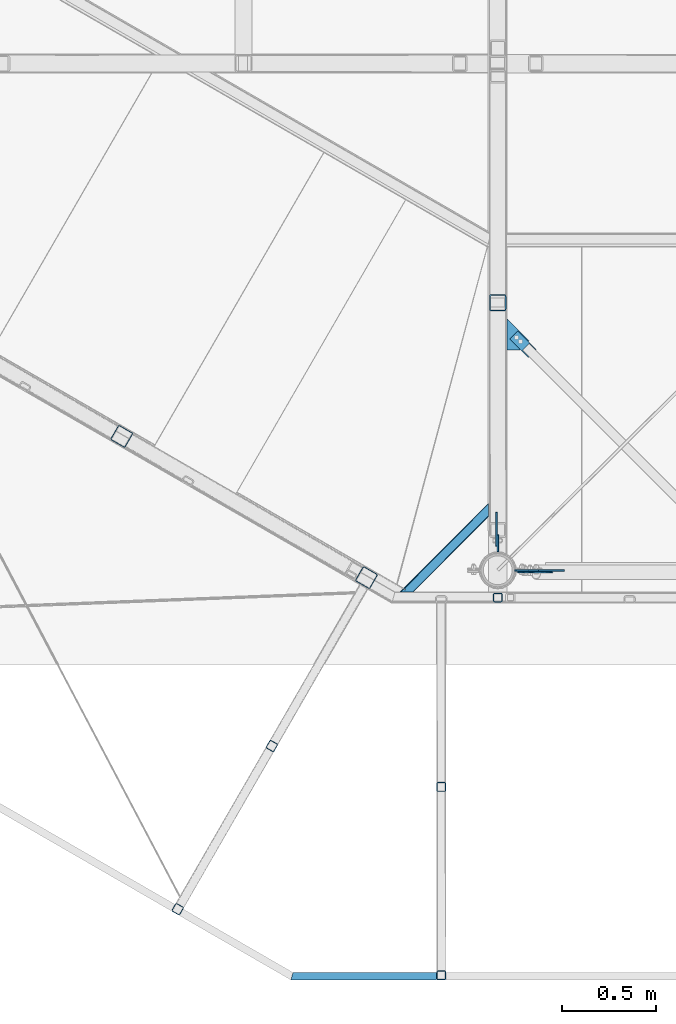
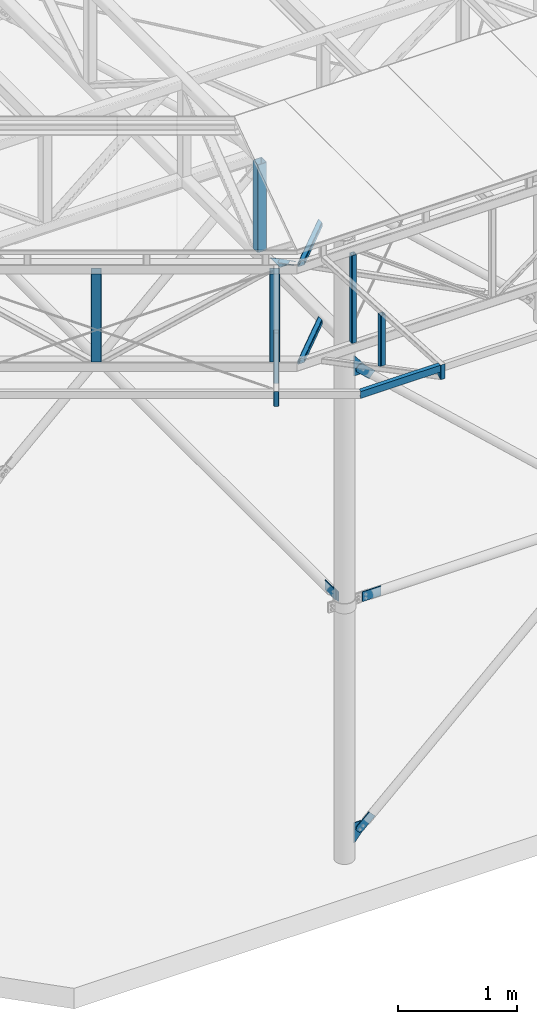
# One storey, part 62 of 132: 20 discrete accessories, 11 elements without a shape of their own.
"""IFC2X3 building model written with IfcOpenShell, lengths in millimetres."""

from ifc_helpers import new_model, si_unit, frame, origin_with_axes, origin_2d_with_axis, place, context, subcontext, project, spatial, polyline, rectangle, hollow_rectangle, u_section, outline, extrude, boolean, clip, halfspace, material, type_object, element, aggregate, save


model = new_model("IFC2X3")

# Units and contexts
model_context = context("Model", 3, precision=1e-05, world=origin_with_axes())
body_context = subcontext(model_context, "Body", "Model", "MODEL_VIEW")
ifc_project = project(units=[si_unit("LENGTHUNIT", "METRE", prefix="MILLI"), si_unit("AREAUNIT", "SQUARE_METRE"), si_unit("VOLUMEUNIT", "CUBIC_METRE"), si_unit("MASSUNIT", "GRAM", prefix="KILO"), si_unit("TIMEUNIT", "SECOND"), si_unit("PLANEANGLEUNIT", "RADIAN"), si_unit("SOLIDANGLEUNIT", "STERADIAN"), si_unit("THERMODYNAMICTEMPERATUREUNIT", "DEGREE_CELSIUS"), si_unit("LUMINOUSINTENSITYUNIT", "LUMEN")], contexts=[model_context])

# Site, building, storey
site_placement = place(None, origin_with_axes())
site = spatial("IfcSite", under=ifc_project, at=site_placement, Name="Budowa", CompositionType="ELEMENT")
building_placement = place(site_placement, origin_with_axes())
building = spatial("IfcBuilding", under=site, at=building_placement, Name="Undefined", CompositionType="ELEMENT")
storey_placement = place(building_placement, origin_with_axes())
storey = spatial("IfcBuildingStorey", under=building, at=storey_placement, Name="Undefined", CompositionType="ELEMENT", Elevation=0.0)

# Assembly, discrete accessory
assembly_1_placement = place(storey_placement, origin_with_axes())
assembly_1 = element("IfcElementAssembly", 1, at=assembly_1_placement, inside=storey, Name="Steel Assembly", AssemblyPlace="NOTDEFINED", PredefinedType="RIGID_FRAME")
ifc_material = material(Name="STEEL/S235")
discrete_accessory_type_1 = type_object("IfcDiscreteAccessoryType", Name="BLACHA")
discrete_accessory_1_placement = place(assembly_1_placement, frame((9547.31003908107, -10.0000023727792, 7734.82673924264), z_axis=(0.67855182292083, 0.0, -0.734552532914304), x_axis=(0.734552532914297, 0.0, 0.678551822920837)))
discrete_accessory_1 = element("IfcDiscreteAccessory", 2, at=discrete_accessory_1_placement, type_object=discrete_accessory_type_1, material=ifc_material, Name="BLACHA", ObjectType="BL8*86", context=body_context, shape_type="CSG", body=[
    boolean("DIFFERENCE", boolean("DIFFERENCE", extrude(rectangle(XDim=8.0, YDim=86.0, at=origin_2d_with_axis()), frame((190.000000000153, -3.63797880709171e-12, 3.30513394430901e-13), z_axis=(-1.0, 0.0, 0.0), x_axis=(0.0, -1.0, 0.0)), (0.0, 0.0, 1.0), 190.0), extrude(outline(polyline([(0.0, 0.0), (20.0000000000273, -3.63797880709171e-12), (5.45696821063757e-12, 20.0000000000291), (0.0, 0.0)])), frame((-1.81898940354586e-12, 6.49999757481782, 42.9999999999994), z_axis=(0.0, -1.0, 0.0), x_axis=(0.0, 0.0, -1.0)), (0.0, 0.0, 1.0), 13.0)), extrude(outline(polyline([(0.0, 0.0), (20.0000000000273, -3.63797880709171e-12), (5.45696821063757e-12, 20.0000000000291), (0.0, 0.0)])), frame((-1.81898940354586e-12, -6.50000242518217, -42.9999999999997), z_axis=(0.0, 1.0, 0.0), x_axis=(0.0, 0.0, 1.0)), (0.0, 0.0, 1.0), 13.0)),
])
aggregate(assembly_1, [discrete_accessory_1])

assembly_2_placement = place(storey_placement, origin_with_axes())
assembly_2 = element("IfcElementAssembly", 3, at=assembly_2_placement, inside=storey, Name="Steel Assembly", AssemblyPlace="NOTDEFINED", PredefinedType="RIGID_FRAME")
discrete_accessory_2_placement = place(assembly_2_placement, frame((9513.89999968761, -0.000999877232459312, 7825.00048828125), z_axis=(0.0, -1.0, 0.0), x_axis=(0.0, 0.0, -1.0)))
discrete_accessory_2 = element("IfcDiscreteAccessory", 4, at=discrete_accessory_2_placement, type_object=discrete_accessory_type_1, material=ifc_material, Name="BLACHA", ObjectType="BL8*126", context=body_context, shape_type="SweptSolid", body=[
    extrude(outline(polyline([(0.0, 0.0), (203.000061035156, 0.0), (203.000061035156, 10.0), (57.9996109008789, 126.000587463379), (-9.02218744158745e-10, 73.001091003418), (0.0, 0.0)])), frame((0.0, 0.0, -4.0), z_axis=(0.0, 0.0, 1.0), x_axis=(1.0, 0.0, 0.0)), (0.0, 0.0, 1.0), 8.0),
])

assembly_3_placement = place(storey_placement, origin_with_axes())
assembly_3 = element("IfcElementAssembly", 5, at=assembly_3_placement, inside=storey, Name="Steel Assembly", AssemblyPlace="NOTDEFINED", PredefinedType="RIGID_FRAME")
discrete_accessory_3_placement = place(assembly_3_placement, frame((9417.00000277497, 127.907905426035, 10116.0003779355), z_axis=(1.0, 0.0, 0.0), x_axis=(0.0, 1.0, 0.0)))
discrete_accessory_3 = element("IfcDiscreteAccessory", 6, at=discrete_accessory_3_placement, type_object=discrete_accessory_type_1, material=ifc_material, Name="BLACHA", ObjectType="BL8*100", context=body_context, shape_type="SweptSolid", body=[
    extrude(outline(polyline([(0.0, -50.0), (0.0, 50.0), (180.0, 50.0), (180.0, -50.0), (0.0, -50.0)])), frame((0.0, 0.0, -4.0), z_axis=(0.0, 0.0, 1.0), x_axis=(1.0, 0.0, 0.0)), (0.0, 0.0, 1.0), 8.0),
])
aggregate(assembly_3, [discrete_accessory_3])

assembly_4_placement = place(storey_placement, origin_with_axes())
assembly_4 = element("IfcElementAssembly", 7, at=assembly_4_placement, inside=storey, Name="Steel Assembly", AssemblyPlace="NOTDEFINED", PredefinedType="RIGID_FRAME")
discrete_accessory_4_placement = place(assembly_4_placement, frame((9425.00000277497, 97.9956434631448, 10066.0003796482), z_axis=(-1.0, 0.0, 0.0), x_axis=(0.0, 0.0, 1.0)))
discrete_accessory_4 = element("IfcDiscreteAccessory", 8, at=discrete_accessory_4_placement, type_object=discrete_accessory_type_1, material=ifc_material, Name="BLACHA", ObjectType="BL8*90", context=body_context, shape_type="SweptSolid", body=[
    extrude(outline(polyline([(0.0, 0.0), (100.0, 0.0), (100.0, 89.9122619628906), (0.0, 89.9122619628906), (0.0, 0.0)])), frame((0.0, 0.0, -4.0), z_axis=(0.0, 0.0, 1.0), x_axis=(1.0, 0.0, 0.0)), (0.0, 0.0, 1.0), 8.0),
])
aggregate(assembly_4, [discrete_accessory_4])

assembly_5_placement = place(storey_placement, origin_with_axes())
assembly_5 = element("IfcElementAssembly", 9, at=assembly_5_placement, inside=storey, Name="Steel Assembly", AssemblyPlace="NOTDEFINED", PredefinedType="RIGID_FRAME")
discrete_accessory_5_placement = place(assembly_5_placement, frame((9598.13669408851, -2.00000054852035, 10116.0003779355), z_axis=(0.0, -1.0, 0.0), x_axis=(1.0, 0.0, 0.0)))
discrete_accessory_5 = element("IfcDiscreteAccessory", 10, at=discrete_accessory_5_placement, type_object=discrete_accessory_type_1, material=ifc_material, Name="BLACHA", ObjectType="BL8*100", context=body_context, shape_type="SweptSolid", body=[
    extrude(outline(polyline([(0.0, -50.0), (0.0, 50.0), (180.0, 50.0), (180.0, -50.0), (0.0, -50.0)])), frame((0.0, 0.0, -4.0), z_axis=(0.0, 0.0, 1.0), x_axis=(1.0, 0.0, 0.0)), (0.0, 0.0, 1.0), 8.0),
])
aggregate(assembly_5, [discrete_accessory_5])

assembly_6_placement = place(storey_placement, origin_with_axes())
assembly_6 = element("IfcElementAssembly", 11, at=assembly_6_placement, inside=storey, Name="Steel Assembly", AssemblyPlace="NOTDEFINED", PredefinedType="RIGID_FRAME")
discrete_accessory_6_placement = place(assembly_6_placement, frame((9547.31003885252, -10.0000024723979, 12497.1740173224), z_axis=(-0.67855182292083, 0.0, -0.734552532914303), x_axis=(0.734552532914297, 0.0, -0.678551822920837)))
discrete_accessory_6 = element("IfcDiscreteAccessory", 12, at=discrete_accessory_6_placement, type_object=discrete_accessory_type_1, material=ifc_material, Name="BLACHA", ObjectType="BL8*86", context=body_context, shape_type="CSG", body=[
    boolean("DIFFERENCE", boolean("DIFFERENCE", extrude(rectangle(XDim=8.0, YDim=86.0, at=origin_2d_with_axis()), frame((190.000000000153, -3.63797880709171e-12, 3.30513394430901e-13), z_axis=(-1.0, 0.0, 0.0), x_axis=(0.0, -1.0, 0.0)), (0.0, 0.0, 1.0), 190.0), extrude(outline(polyline([(0.0, 0.0), (20.0000000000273, -3.63797880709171e-12), (5.45696821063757e-12, 20.0000000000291), (0.0, 0.0)])), frame((-1.81898940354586e-12, 6.49999757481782, 42.9999999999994), z_axis=(0.0, -1.0, 0.0), x_axis=(0.0, 0.0, -1.0)), (0.0, 0.0, 1.0), 13.0)), extrude(outline(polyline([(0.0, 0.0), (20.0000000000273, -3.63797880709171e-12), (5.45696821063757e-12, 20.0000000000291), (0.0, 0.0)])), frame((-1.81898940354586e-12, -6.50000242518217, -42.9999999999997), z_axis=(0.0, 1.0, 0.0), x_axis=(0.0, 0.0, 1.0)), (0.0, 0.0, 1.0), 13.0)),
])
aggregate(assembly_6, [discrete_accessory_6])

# Discrete accessory
discrete_accessory_7_placement = place(assembly_2_placement, frame((9513.89999967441, -0.000999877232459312, 12610.0003356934), z_axis=(0.0, -1.0, 0.0), x_axis=(0.0, 0.0, -1.0)))
discrete_accessory_7 = element("IfcDiscreteAccessory", 13, at=discrete_accessory_7_placement, type_object=discrete_accessory_type_1, material=ifc_material, Name="BLACHA", ObjectType="BL8*126", context=body_context, shape_type="SweptSolid", body=[
    extrude(outline(polyline([(0.0, 0.0), (203.000061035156, 0.0), (203.000061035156, 73.001091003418), (144.99951171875, 126.000587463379), (0.0, 10.0), (0.0, 0.0)])), frame((0.0, 0.0, -4.0), z_axis=(0.0, 0.0, 1.0), x_axis=(1.0, 0.0, 0.0)), (0.0, 0.0, 1.0), 8.0),
])

aggregate(assembly_2, [discrete_accessory_2, discrete_accessory_7])

# Assembly, discrete accessory
assembly_7_placement = place(storey_placement, origin_with_axes())
assembly_7 = element("IfcElementAssembly", 14, at=assembly_7_placement, inside=storey, Name="Steel Assembly", AssemblyPlace="NOTDEFINED", PredefinedType="RIGID_FRAME")
discrete_accessory_8_placement = place(assembly_7_placement, frame((9630.42135806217, 1171.90504885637, 12830.0), z_axis=(0.0, 0.0, 1.0), x_axis=(-0.707106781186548, 0.707106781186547, 0.0)))
discrete_accessory_8 = element("IfcDiscreteAccessory", 15, at=discrete_accessory_8_placement, type_object=discrete_accessory_type_1, material=ifc_material, Name="BLACHA", ObjectType="BL6*60", context=body_context, shape_type="SweptSolid", body=[
    extrude(outline(polyline([(0.0, 0.0), (139.99999999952, -6.2755134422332e-10), (139.99999999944, 59.9999999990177), (0.0, 60.0), (-8.00355337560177e-11, 54.9999999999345), (49.9999999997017, 54.9999999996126), (49.9999999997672, 4.99999999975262), (-8.73114913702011e-11, 5.00000000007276), (0.0, 0.0)])), frame((0.0, 0.0, -3.0), z_axis=(0.0, 0.0, 1.0), x_axis=(1.0, 0.0, 0.0)), (0.0, 0.0, 1.0), 6.0),
])
aggregate(assembly_7, [discrete_accessory_8])

assembly_8_placement = place(storey_placement, origin_with_axes())
assembly_8 = element("IfcElementAssembly", 16, at=assembly_8_placement, inside=storey, Name="Steel Assembly", AssemblyPlace="NOTDEFINED", PredefinedType="RIGID_FRAME")
discrete_accessory_9_placement = place(assembly_8_placement, frame((9474.99999994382, 1334.39747478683, 12824.0), z_axis=(0.0, 0.0, 1.0), x_axis=(0.0, -1.0, 0.0)))
discrete_accessory_9 = element("IfcDiscreteAccessory", 17, at=discrete_accessory_9_placement, type_object=discrete_accessory_type_1, material=ifc_material, Name="BLACHA", ObjectType="BL6*117", context=body_context, shape_type="SweptSolid", body=[
    extrude(outline(polyline([(0.0, 0.0), (166.027954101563, 0.0), (166.027954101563, 67.0330123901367), (116.530487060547, 116.530487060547), (0.0, 0.0)])), frame((0.0, 0.0, -3.0), z_axis=(0.0, 0.0, 1.0), x_axis=(1.0, 0.0, 0.0)), (0.0, 0.0, 1.0), 6.0),
])

assembly_9_placement = place(storey_placement, origin_with_axes())
assembly_9 = element("IfcElementAssembly", 18, at=assembly_9_placement, inside=storey, Name="Steel Assembly", AssemblyPlace="NOTDEFINED", PredefinedType="RIGID_FRAME")
discrete_accessory_type_2 = type_object("IfcDiscreteAccessoryType", Name="BEAM")
discrete_accessory_10_placement = place(assembly_9_placement, frame((8149.99999993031, -2155.0003814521, 13945.0050191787), z_axis=(0.0, 0.0, -1.0), x_axis=(1.0, 0.0, 0.0)))
discrete_accessory_10 = element("IfcDiscreteAccessory", 19, at=discrete_accessory_10_placement, type_object=discrete_accessory_type_2, material=ifc_material, Name="BEAM", ObjectType="C70*40*4", context=body_context, shape_type="Clipping", body=[
    clip(extrude(u_section(Depth=70.0, FlangeWidth=40.0, WebThickness=4.0, FlangeThickness=4.0, FilletRadius=6.0, at=origin_2d_with_axis()), frame((950.000000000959, 1.82248795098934e-14, 0.0), z_axis=(-1.0, 0.0, 0.0), x_axis=(0.0, -1.0, 0.0)), (0.0, 0.0, 1.0), 772.94), halfspace(frame((187.829205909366, -19.999999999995, 0.0), z_axis=(-0.965930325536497, -0.258802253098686, 0.0), x_axis=(0.0, 0.0, -1.0)), False)),
])
aggregate(assembly_9, [discrete_accessory_10])

# Assembly, discrete accessories
assembly_10_placement = place(storey_placement, origin_with_axes())
assembly_10 = element("IfcElementAssembly", 20, at=assembly_10_placement, inside=storey, Name="Steel Assembly", AssemblyPlace="NOTDEFINED", PredefinedType="RIGID_FRAME")
discrete_accessory_11_placement = place(assembly_10_placement, frame((8225.80873164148, -932.973322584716, 13878.94002838), z_axis=(-0.866042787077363, 0.499969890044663, 0.0), x_axis=(0.0, 0.0, -1.0)))
discrete_accessory_11 = element("IfcDiscreteAccessory", 21, at=discrete_accessory_11_placement, type_object=discrete_accessory_type_2, material=ifc_material, Name="BEAM", ObjectType="SHS50*4", context=body_context, shape_type="Clipping", body=[
    clip(clip(extrude(hollow_rectangle(XDim=50.0, YDim=50.0, WallThickness=4.0, InnerFilletRadius=4.0, OuterFilletRadius=8.0, at=origin_2d_with_axis()), frame((545.085010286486, 0.0, 0.0), z_axis=(-1.0, 0.0, 0.0), x_axis=(0.0, -1.0, 0.0)), (0.0, 0.0, 1.0), 559.36), halfspace(frame((536.667324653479, -11.620388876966, 1000.0), z_axis=(-0.885407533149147, -0.464815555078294, 0.0), x_axis=(0.464815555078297, -0.885407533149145, 0.0)), True)), halfspace(frame((0.185048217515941, 1.24844042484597, 1000.0), z_axis=(0.998752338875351, 0.0499376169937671, 0.0), x_axis=(-0.0499376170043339, 0.998752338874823, 2.09020387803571e-11)), True)),
])
discrete_accessory_12_placement = place(assembly_10_placement, frame((7725.8388415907, -1799.0161096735, 13979.9998397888), z_axis=(-0.866042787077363, 0.499969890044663, 0.0), x_axis=(0.0, 0.0, -1.0)))
discrete_accessory_12 = element("IfcDiscreteAccessory", 22, at=discrete_accessory_12_placement, type_object=discrete_accessory_type_2, material=ifc_material, Name="BEAM", ObjectType="SHS50*4", context=body_context, shape_type="Clipping", body=[
    clip(clip(extrude(hollow_rectangle(XDim=50.0, YDim=50.0, WallThickness=4.0, InnerFilletRadius=4.0, OuterFilletRadius=8.0, at=origin_2d_with_axis()), frame((176.695154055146, 0.0, 0.0), z_axis=(-1.0, 0.0, 0.0), x_axis=(0.0, -1.0, 0.0)), (0.0, 0.0, 1.0), 192.23), halfspace(frame((149.999998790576, 25.0, 0.0), z_axis=(0.855808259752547, -0.517293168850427, 0.0), x_axis=(0.0, 0.0, -1.0)), False)), halfspace(frame((-0.00517939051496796, 25.0, 0.0), z_axis=(-0.689225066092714, -0.724547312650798, 2.88487317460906e-10), x_axis=(0.0, 0.0, 1.0)), False)),
])
aggregate(assembly_10, [discrete_accessory_11, discrete_accessory_12])

assembly_11_placement = place(storey_placement, origin_with_axes())
assembly_11 = element("IfcElementAssembly", 23, at=assembly_11_placement, inside=storey, Name="Steel Assembly", AssemblyPlace="NOTDEFINED", PredefinedType="RIGID_FRAME")
discrete_accessory_13_placement = place(assembly_11_placement, frame((9124.99999998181, -1150.00038125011, 13878.9400283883), z_axis=(1.0, 0.0, 0.0), x_axis=(0.0, 0.0, -1.0)))
discrete_accessory_13 = element("IfcDiscreteAccessory", 24, at=discrete_accessory_13_placement, type_object=discrete_accessory_type_2, material=ifc_material, Name="BEAM", ObjectType="SHS50*4", context=body_context, shape_type="Clipping", body=[
    clip(clip(extrude(hollow_rectangle(XDim=50.0, YDim=50.0, WallThickness=4.0, InnerFilletRadius=4.0, OuterFilletRadius=8.0, at=origin_2d_with_axis()), frame((545.085010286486, 0.0, 0.0), z_axis=(-1.0, 0.0, 0.0), x_axis=(0.0, -1.0, 0.0)), (0.0, 0.0, 1.0), 559.36), halfspace(frame((536.667324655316, 11.6203888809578, 999.999999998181), z_axis=(-0.885407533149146, 0.464815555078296, 0.0), x_axis=(-0.464815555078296, -0.885407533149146, 0.0)), True)), halfspace(frame((0.185048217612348, -1.24844042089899, 999.999999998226), z_axis=(0.998752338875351, -0.0499376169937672, 0.0), x_axis=(0.0499376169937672, 0.998752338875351, 0.0)), True)),
])
discrete_accessory_14_placement = place(assembly_11_placement, frame((9124.99999998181, -2150.00038125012, 13979.999839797), z_axis=(1.0, 0.0, 0.0), x_axis=(0.0, 0.0, -1.0)))
discrete_accessory_14 = element("IfcDiscreteAccessory", 25, at=discrete_accessory_14_placement, type_object=discrete_accessory_type_2, material=ifc_material, Name="BEAM", ObjectType="SHS50*4", context=body_context, shape_type="Clipping", body=[
    clip(clip(extrude(hollow_rectangle(XDim=50.0, YDim=50.0, WallThickness=4.0, InnerFilletRadius=4.0, OuterFilletRadius=8.0, at=origin_2d_with_axis()), frame((176.695154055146, 0.0, 0.0), z_axis=(-1.0, 0.0, 0.0), x_axis=(0.0, -1.0, 0.0)), (0.0, 0.0, 1.0), 192.23), halfspace(frame((149.999998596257, -25.0000000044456, 4.06544131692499e-09), z_axis=(0.855808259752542, 0.517293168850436, 0.0), x_axis=(0.0, 0.0, 1.0)), False)), halfspace(frame((-0.00517941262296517, -25.0000000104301, 1.04982973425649e-08), z_axis=(-0.689225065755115, 0.724547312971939, 0.0), x_axis=(0.0, 0.0, -1.0)), False)),
])
aggregate(assembly_11, [discrete_accessory_13, discrete_accessory_14])

# Discrete accessory
discrete_accessory_15_placement = place(assembly_8_placement, frame((9424.99999994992, 369.100000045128, 12830.0), z_axis=(0.0, 0.0, 1.0), x_axis=(-0.70710678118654, -0.707106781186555, 0.0)))
solid_1 = boolean("DIFFERENCE", extrude(hollow_rectangle(XDim=100.0, YDim=100.0, WallThickness=5.0, InnerFilletRadius=5.0, OuterFilletRadius=10.0, at=origin_2d_with_axis()), frame((2199.68118985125, -5472.49499178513, 1.81898940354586e-12), z_axis=(-0.259884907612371, 0.965639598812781, 0.0), x_axis=(-0.965639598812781, -0.259884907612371, 0.0)), (0.0, 0.0, 1.0), 5667.29), halfspace(frame((782.060099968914, -12.727922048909, 1.81898940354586e-12), z_axis=(0.225746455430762, 0.9741860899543, 0.0), x_axis=(0.0, 0.0, 1.0)), False))
discrete_accessory_15 = element("IfcDiscreteAccessory", 26, at=discrete_accessory_15_placement, type_object=discrete_accessory_type_2, material=ifc_material, Name="BEAM", ObjectType="SHS50*4", context=body_context, shape_type="CSG", body=[
    boolean("DIFFERENCE", boolean("DIFFERENCE", boolean("DIFFERENCE", extrude(hollow_rectangle(XDim=50.0, YDim=50.0, WallThickness=4.0, InnerFilletRadius=4.0, OuterFilletRadius=8.0, at=origin_2d_with_axis()), frame((721.003612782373, 9.09494701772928e-13, 1.81898940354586e-12), z_axis=(-1.0, 0.0, 0.0), x_axis=(0.0, -1.0, 0.0)), (0.0, 0.0, 1.0), 686.82), solid_1), halfspace(frame((705.69256762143, -21.2132034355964, 1000.0), z_axis=(-0.70710678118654, -0.707106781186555, 0.0), x_axis=(0.707106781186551, -0.707106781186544, 0.0)), True)), halfspace(frame((35.3553390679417, -35.355339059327, 1000.0), z_axis=(0.707106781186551, -0.707106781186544, 0.0), x_axis=(0.707106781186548, 0.707106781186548, 0.0)), True)),
])

discrete_accessory_16_placement = place(assembly_8_placement, frame((9424.99999994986, 369.100000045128, 13830.0), z_axis=(0.0, 0.0, 1.0), x_axis=(-0.70710678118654, -0.707106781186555, 0.0)))
solid_2 = boolean("DIFFERENCE", extrude(hollow_rectangle(XDim=100.0, YDim=100.0, WallThickness=5.0, InnerFilletRadius=5.0, OuterFilletRadius=10.0, at=origin_2d_with_axis()), frame((2199.68118985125, -5472.49499178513, 1.81898940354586e-12), z_axis=(-0.259884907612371, 0.965639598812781, 0.0), x_axis=(-0.965639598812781, -0.259884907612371, 0.0)), (0.0, 0.0, 1.0), 5667.29), halfspace(frame((782.060099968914, -12.727922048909, 1.81898940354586e-12), z_axis=(0.225746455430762, 0.9741860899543, 0.0), x_axis=(0.0, 0.0, 1.0)), False))
discrete_accessory_16 = element("IfcDiscreteAccessory", 27, at=discrete_accessory_16_placement, type_object=discrete_accessory_type_2, material=ifc_material, Name="BEAM", ObjectType="SHS50*4", context=body_context, shape_type="CSG", body=[
    boolean("DIFFERENCE", boolean("DIFFERENCE", boolean("DIFFERENCE", extrude(hollow_rectangle(XDim=50.0, YDim=50.0, WallThickness=4.0, InnerFilletRadius=4.0, OuterFilletRadius=8.0, at=origin_2d_with_axis()), frame((721.003612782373, 9.09494701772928e-13, 1.81898940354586e-12), z_axis=(-1.0, 0.0, 0.0), x_axis=(0.0, -1.0, 0.0)), (0.0, 0.0, 1.0), 686.82), solid_2), halfspace(frame((705.69256762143, -21.2132034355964, 1000.0), z_axis=(-0.70710678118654, -0.707106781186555, 0.0), x_axis=(0.707106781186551, -0.707106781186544, 0.0)), True)), halfspace(frame((35.3553390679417, -35.355339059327, 1000.0), z_axis=(0.707106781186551, -0.707106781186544, 0.0), x_axis=(0.707106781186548, 0.707106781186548, 0.0)), True)),
])

discrete_accessory_17_placement = place(assembly_8_placement, frame((7428.87136259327, 710.761942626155, 12880.0), z_axis=(0.0, 0.0, 1.0), x_axis=(-0.499969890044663, -0.866042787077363, 0.0)))
discrete_accessory_17 = element("IfcDiscreteAccessory", 28, at=discrete_accessory_17_placement, type_object=discrete_accessory_type_2, material=ifc_material, Name="BEAM", ObjectType="SHS90*4", context=body_context, shape_type="Clipping", body=[
    clip(clip(extrude(hollow_rectangle(XDim=90.0, YDim=90.0, WallThickness=4.0, InnerFilletRadius=4.0, OuterFilletRadius=8.0, at=origin_2d_with_axis()), frame((0.0, 0.0, 900.0), z_axis=(0.0, 0.0, -1.0), x_axis=(0.0, 1.0, 0.0)), (0.0, 0.0, 1.0), 900.0), halfspace(frame((1000.0, 0.0, 900.0), z_axis=(0.0, 0.0, -1.0), x_axis=(0.0, 1.0, 0.0)), True)), halfspace(frame((1000.0, 0.0, 0.0), z_axis=(0.0, 0.0, 1.0), x_axis=(0.0, -1.0, 0.0)), True)),
])

discrete_accessory_18_placement = place(assembly_8_placement, frame((8727.93554321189, -39.1928924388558, 12880.0), z_axis=(0.0, 0.0, 1.0), x_axis=(-0.499969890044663, -0.866042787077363, 0.0)))
discrete_accessory_18 = element("IfcDiscreteAccessory", 29, at=discrete_accessory_18_placement, type_object=discrete_accessory_type_2, material=ifc_material, Name="BEAM", ObjectType="SHS90*4", context=body_context, shape_type="Clipping", body=[
    clip(clip(extrude(hollow_rectangle(XDim=90.0, YDim=90.0, WallThickness=4.0, InnerFilletRadius=4.0, OuterFilletRadius=8.0, at=origin_2d_with_axis()), frame((0.0, 0.0, 900.0), z_axis=(0.0, 0.0, -1.0), x_axis=(0.0, 1.0, 0.0)), (0.0, 0.0, 1.0), 900.0), halfspace(frame((1000.0, 0.0, 900.0), z_axis=(0.0, 0.0, -1.0), x_axis=(0.0, 1.0, 0.0)), True)), halfspace(frame((1000.0, 0.0, 0.0), z_axis=(0.0, 0.0, 1.0), x_axis=(0.0, -1.0, 0.0)), True)),
])

discrete_accessory_19_placement = place(assembly_8_placement, frame((9424.99999994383, -144.899999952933, 12880.0), z_axis=(0.0, 0.0, 1.0), x_axis=(0.0, -1.0, 0.0)))
discrete_accessory_19 = element("IfcDiscreteAccessory", 30, at=discrete_accessory_19_placement, type_object=discrete_accessory_type_2, material=ifc_material, Name="BEAM", ObjectType="SHS50*5", context=body_context, shape_type="Clipping", body=[
    clip(clip(extrude(hollow_rectangle(XDim=50.0, YDim=50.0, WallThickness=5.0, InnerFilletRadius=5.0, OuterFilletRadius=10.0, at=origin_2d_with_axis()), frame((0.0, 0.0, 900.0), z_axis=(0.0, 0.0, -1.0), x_axis=(0.0, 1.0, 0.0)), (0.0, 0.0, 1.0), 900.0), halfspace(frame((1000.0, 0.0, 900.0), z_axis=(0.0, 0.0, -1.0), x_axis=(0.0, 1.0, 0.0)), True)), halfspace(frame((1000.0, 0.0, 0.0), z_axis=(0.0, 0.0, 1.0), x_axis=(0.0, -1.0, 0.0)), True)),
])

discrete_accessory_20_placement = place(assembly_8_placement, frame((9424.99999994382, 1420.00000004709, 12880.0), z_axis=(0.0, 0.0, 1.0), x_axis=(-1.0, 0.0, 0.0)))
discrete_accessory_20 = element("IfcDiscreteAccessory", 31, at=discrete_accessory_20_placement, type_object=discrete_accessory_type_2, material=ifc_material, Name="BEAM", ObjectType="SHS90*6", context=body_context, shape_type="Clipping", body=[
    clip(clip(extrude(hollow_rectangle(XDim=90.0, YDim=90.0, WallThickness=6.0, InnerFilletRadius=6.0, OuterFilletRadius=12.0, at=origin_2d_with_axis()), frame((0.0, 0.0, 900.0), z_axis=(0.0, 0.0, -1.0), x_axis=(0.0, 1.0, 0.0)), (0.0, 0.0, 1.0), 900.0), halfspace(frame((1000.0, 0.0, 900.0), z_axis=(0.0, 0.0, -1.0), x_axis=(0.0, 1.0, 0.0)), True)), halfspace(frame((1000.0, 0.0, 0.0), z_axis=(0.0, 0.0, 1.0), x_axis=(0.0, -1.0, 0.0)), True)),
])

aggregate(assembly_8, [discrete_accessory_9, discrete_accessory_15, discrete_accessory_16, discrete_accessory_17, discrete_accessory_18, discrete_accessory_19, discrete_accessory_20])

save(model, "model.ifc")
